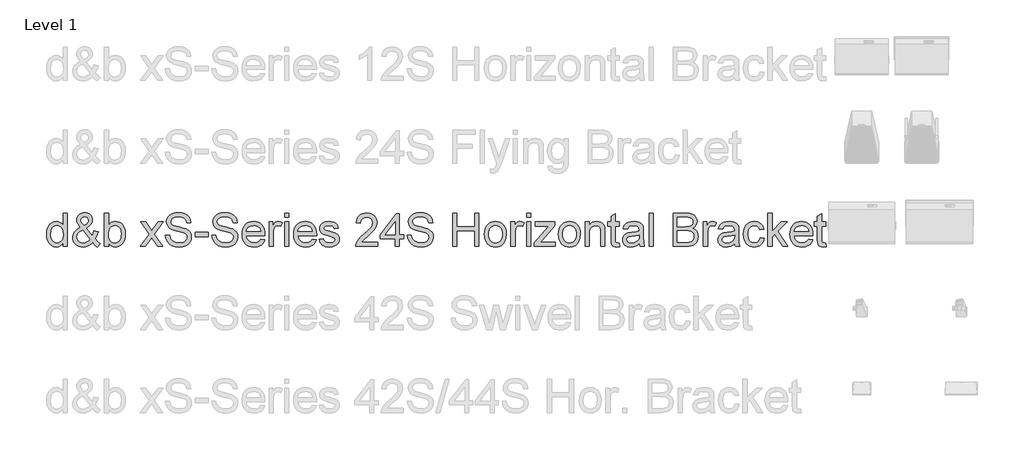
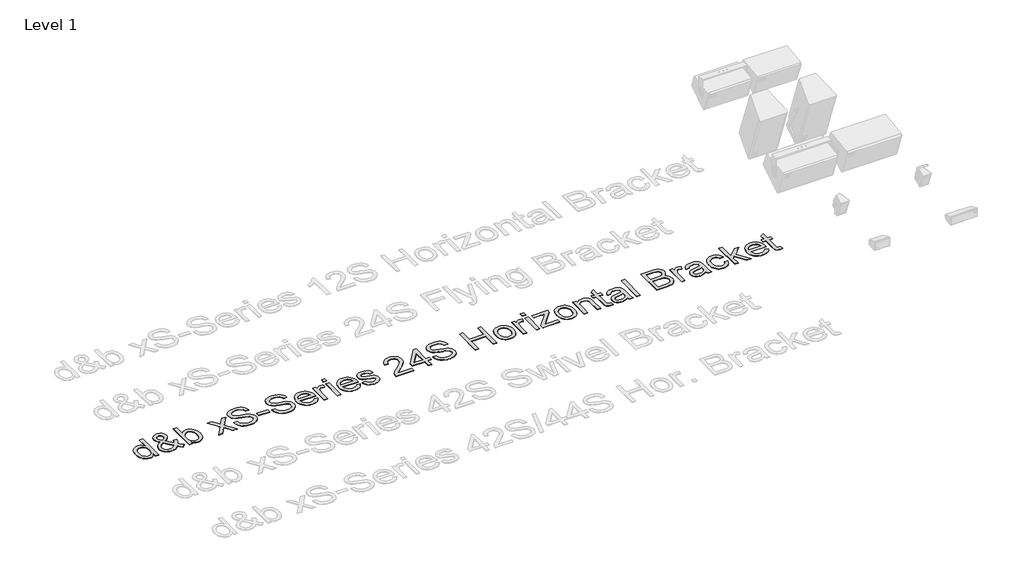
# One storey, part 31 of 55: 1 proxy.
"""IFC4 building model written with IfcOpenShell, lengths in millimetres."""

import ifcopenshell
import ifcopenshell.guid

model = None  # the IFC model being written
_history = None  # IfcOwnerHistory: only IFC2X3 demands one
_inside = {}  # id of a spatial element -> (the spatial element, [elements in it])
_under = {}  # id of a project, library or spatial element -> (it, [spatial elements below it])
_declared = {}  # id of a project -> (the project, [libraries it declares])
_typed = {}  # id of a type object -> (the type object, [elements of that type])
_made_of = {}  # id of a material, layer set ... -> (it, [elements and type objects made of it])


def new_model(schema):
    """Start an empty IFC model of exactly this schema.

    Asked for "IFC4X3", IfcOpenShell would pick the latest addendum, in which some entities
    have other attributes; the version numbers below select the first issue.
    IFC2X3 requires an IfcOwnerHistory on every rooted entity: one is made here for all.
    """
    global model, _history
    if schema == "IFC4X3":
        model = ifcopenshell.file(schema_version=(4, 3, 0, 0))
    else:
        model = ifcopenshell.file(schema=schema)
    _inside.clear()
    _under.clear()
    _declared.clear()
    _typed.clear()
    _made_of.clear()
    _history = None
    if model.schema == "IFC2X3":
        org = make("IfcOrganization", Name="unknown")
        user = make(
            "IfcPersonAndOrganization",
            ThePerson=make("IfcPerson", FamilyName="unknown"),
            TheOrganization=org,
        )
        app = make(
            "IfcApplication",
            ApplicationDeveloper=org,
            Version="unknown",
            ApplicationFullName="unknown",
            ApplicationIdentifier="unknown",
        )
        _history = make(
            "IfcOwnerHistory",
            OwningUser=user,
            OwningApplication=app,
            ChangeAction="ADDED",
            CreationDate=0,
        )
    return model


def make(cls, **values):
    """One entity of the class cls with the attributes given. An attribute that is None is left unset."""
    return model.create_entity(
        cls, **{name: value for name, value in values.items() if value is not None}
    )


def rooted(cls, **values):
    """An entity with a GlobalId (a new one), such as an element, a storey or a relation."""
    return make(cls, GlobalId=ifcopenshell.guid.new(), OwnerHistory=_history, **values)


def si_unit(unit_type, name, prefix=None):
    """IfcSIUnit, for example si_unit("LENGTHUNIT", "METRE", prefix="MILLI")."""
    return make("IfcSIUnit", UnitType=unit_type, Prefix=prefix, Name=name)


def assignment(units):
    """IfcUnitAssignment: the units of a project."""
    return None if units is None else make("IfcUnitAssignment", Units=units)


def point(xyz):
    """IfcCartesianPoint."""
    return None if xyz is None else make("IfcCartesianPoint", Coordinates=xyz)


def direction(xyz):
    """IfcDirection."""
    return None if xyz is None else make("IfcDirection", DirectionRatios=xyz)


def frame(location, z_axis=None, x_axis=None):
    """IfcAxis2Placement3D, a coordinate frame: its origin and axes. An axis left out is left unset."""
    return make(
        "IfcAxis2Placement3D",
        Location=point(location),
        Axis=direction(z_axis),
        RefDirection=direction(x_axis),
    )


def origin():
    """The frame at (0, 0, 0) with its axes left unset."""
    return frame((0.0, 0.0, 0.0))


def origin_with_axes():
    """The frame at (0, 0, 0) with the z axis (0, 0, 1) and the x axis (1, 0, 0) written out."""
    return frame((0.0, 0.0, 0.0), z_axis=(0.0, 0.0, 1.0), x_axis=(1.0, 0.0, 0.0))


def place(relative_to, where):
    """IfcLocalPlacement: puts the frame where relative to a parent placement (None: the world)."""
    return make(
        "IfcLocalPlacement", PlacementRelTo=relative_to, RelativePlacement=where
    )


def context(
    kind, dimensions, precision=None, world=None, true_north=None, identifier=None
):
    """IfcGeometricRepresentationContext, for example the 3D "Model" context."""
    return make(
        "IfcGeometricRepresentationContext",
        ContextIdentifier=identifier,
        ContextType=kind,
        CoordinateSpaceDimension=dimensions,
        Precision=precision,
        WorldCoordinateSystem=world,
        TrueNorth=true_north,
    )


def project(units=None, contexts=None):
    """IfcProject with its units and contexts."""
    return rooted(
        "IfcProject",
        Name="project",
        RepresentationContexts=contexts,
        UnitsInContext=assignment(units),
    )


def spatial(cls, under=None, at=None, **own):
    """A site, building, storey or space (cls), placed at a placement, below another one or the project."""
    s = rooted(cls, ObjectPlacement=at, **own)
    if under is not None:
        _under.setdefault(under.id(), (under, []))[1].append(s)
    return s


def polyline(points):
    """IfcPolyline through the points."""
    return make("IfcPolyline", Points=[point(p) for p in points])


def outline(outer, holes=None, kind="AREA"):
    """IfcArbitraryClosedProfileDef: a profile drawn as a closed curve; with holes, ...WithVoids."""
    if holes is None:
        return make("IfcArbitraryClosedProfileDef", ProfileType=kind, OuterCurve=outer)
    return make(
        "IfcArbitraryProfileDefWithVoids",
        ProfileType=kind,
        OuterCurve=outer,
        InnerCurves=holes,
    )


def extrude(swept, where, along, depth):
    """IfcExtrudedAreaSolid: the profile swept, set in the frame where, extruded along a direction by depth."""
    return make(
        "IfcExtrudedAreaSolid",
        SweptArea=swept,
        Position=where,
        ExtrudedDirection=direction(along),
        Depth=depth,
    )


def shape(context_of_items, identifier, shape_type, items):
    """IfcShapeRepresentation: the items that make up one representation, for example the "Body"."""
    return make(
        "IfcShapeRepresentation",
        ContextOfItems=context_of_items,
        RepresentationIdentifier=identifier,
        RepresentationType=shape_type,
        Items=items,
    )


def made_of(thing, what):
    """Note that an element or type object is made of a material, layer set ...; save() writes the relation."""
    if what is not None:
        _made_of.setdefault(what.id(), (what, []))[1].append(thing)
    return thing


def element(
    cls,
    number,
    at=None,
    inside=None,
    cuts=None,
    type_object=None,
    material=None,
    context=None,
    identifier="Body",
    shape_type=None,
    held_by="IfcProductDefinitionShape",
    body=None,
    shapes=None,
    **own,
):
    """One element of the class cls, such as IfcWall. Its Tag is "e" and its number.

    at: its placement. inside: the storey or other place that contains it. cuts: it is an
    opening in that element (IfcRelVoidsElement). A single representation is given by context,
    identifier, shape_type and body (its items); several are given by shapes. held_by: the class
    of the entity that holds the representations. save() writes the other relations.
    """
    e = rooted(cls, Tag="e%d" % number, ObjectPlacement=at, **own)
    if body is not None:
        shapes = [shape(context, identifier, shape_type, body)]
    if shapes is not None:
        e.Representation = make(held_by, Representations=shapes)
    if inside is not None:
        _inside.setdefault(inside.id(), (inside, []))[1].append(e)
    if cuts is not None:
        rooted(
            "IfcRelVoidsElement", RelatingBuildingElement=cuts, RelatedOpeningElement=e
        )
    if type_object is not None:
        _typed.setdefault(type_object.id(), (type_object, []))[1].append(e)
    return made_of(e, material)


def aggregate(whole, parts):
    """IfcRelAggregates: a whole, such as a stair, and the parts it consists of."""
    return rooted("IfcRelAggregates", RelatingObject=whole, RelatedObjects=parts)


def save(model, path):
    """Write the relations noted so far, then the file.

    IfcRelAggregates (storeys below a building ...), IfcRelContainedInSpatialStructure (elements
    in a storey), IfcRelDefinesByType, IfcRelAssociatesMaterial and IfcRelDeclares: one each for
    every whole, place, type object, material and project.
    """
    for whole, parts in _under.values():
        aggregate(whole, parts)
    for where, things in _inside.values():
        rooted(
            "IfcRelContainedInSpatialStructure",
            RelatedElements=things,
            RelatingStructure=where,
        )
    for kind, things in _typed.values():
        rooted("IfcRelDefinesByType", RelatedObjects=things, RelatingType=kind)
    for what, things in _made_of.values():
        rooted("IfcRelAssociatesMaterial", RelatedObjects=things, RelatingMaterial=what)
    for by, libraries in _declared.values():
        rooted("IfcRelDeclares", RelatingContext=by, RelatedDefinitions=libraries)
    model.write(path)


model = new_model("IFC4")

# Units and contexts
model_context = context("Model", 3, world=origin())
ifc_project = project(units=[si_unit("LENGTHUNIT", "METRE", prefix="MILLI")], contexts=[model_context])

# Site, building, storey
site = spatial("IfcSite", under=ifc_project)
building = spatial("IfcBuilding", under=site)
storey = spatial("IfcBuildingStorey", under=building, Name="Level 1", Elevation=0.0)

# Proxy
placement = place(None, origin())
element("IfcBuildingElementProxy", 1, Name="400mm Arial", ObjectType="400mm Arial", at=placement, inside=storey, context=model_context, shape_type="SweptSolid", body=[
    extrude(outline(polyline([(-20879.8211974, -4648.6945164), (-20879.8211974, -4601.3113154), (-20894.8491769, -4624.7883181), (-20913.0532043, -4641.5576057), (-20934.4332796, -4651.6191783), (-20958.9894028, -4654.9730358), (-20991.4611202, -4650.1169935), (-21021.1859854, -4635.5488665), (-21046.3491139, -4612.2864616), (-21065.1356211, -4581.3475858), (-21076.8342686, -4543.9830379), (-21080.7338177, -4501.4436165), (-21077.1408369, -4459.4314926), (-21066.3618944, -4421.4905962), (-21048.4092531, -4389.7791682), (-21023.2951755, -4366.4554497), (-20992.9203855, -4352.1080519), (-20959.1856065, -4347.325586), (-20934.6110892, -4350.7468885), (-20912.8815261, -4361.0107962), (-20894.4629008, -4376.7438829), (-20879.8211974, -4396.5727224), (-20879.8211974, -4246.8692758), (-20829.5930424, -4246.8692758), (-20829.5930424, -4648.6945164), (-20879.8211974, -4648.6945164)]), holes=[polyline([(-21030.5056627, -4501.2474128), (-21029.089317, -4525.6042665), (-21024.8402799, -4546.6808392), (-21017.7585515, -4564.4771307), (-21007.8441318, -4578.9931411), (-20983.1469871, -4598.3069458), (-20969.2717046, -4603.135397), (-20954.3786151, -4604.7448807), (-20939.415015, -4603.2089734), (-20925.6225058, -4598.6012514), (-20901.5507606, -4580.1703635), (-20892.0440767, -4566.2613584), (-20885.2535882, -4549.1088603), (-20879.8211974, -4505.0733855), (-20885.3516901, -4456.9298951), (-20892.2648059, -4438.3947739), (-20901.9431681, -4423.5507354), (-20913.6448812, -4412.1770504), (-20926.6280499, -4404.0529896), (-20940.8926743, -4399.1785532), (-20956.4387543, -4397.5537411), (-20971.6261493, -4399.1141738), (-20985.5014319, -4403.7954722), (-20998.064602, -4411.5976362), (-21009.3156597, -4422.5206658), (-21018.586286, -4436.8036843), (-21025.2081619, -4454.6858149), (-21030.5056627, -4501.2474128)])]), origin_with_axes(), (0.0, 0.0, 1.0), 5.0),
    extrude(outline(polyline([(-20523.809528, -4599.0549725), (-20549.3405384, -4623.5191252), (-20577.0788409, -4640.99352), (-20607.0734862, -4651.4781569), (-20639.3735254, -4654.9730358), (-20668.6814577, -4652.3855991), (-20694.8010793, -4644.623289), (-20717.7323904, -4631.6861055), (-20737.4753908, -4613.5740486), (-20750.308341, -4596.2038871), (-20759.4747341, -4577.8404442), (-20764.9745699, -4558.4837198), (-20766.8078485, -4538.1337141), (-20760.9094739, -4502.9396699), (-20743.2143499, -4471.3263438), (-20713.796053, -4443.3182613), (-20672.7281596, -4418.9399477), (-20694.6416638, -4390.5885086), (-20707.7995765, -4368.1231814), (-20714.3846642, -4348.9442668), (-20716.5796934, -4330.4520651), (-20714.8506481, -4312.8979626), (-20709.6635119, -4296.5333452), (-20701.018285, -4281.3582129), (-20688.9149674, -4267.3725657), (-20674.1935562, -4255.6555241), (-20657.6940487, -4247.2862088), (-20639.4164449, -4242.2646195), (-20619.3607448, -4240.5907564), (-20600.212487, -4242.1910431), (-20582.8913764, -4246.9919032), (-20567.397413, -4254.9933366), (-20553.7305969, -4266.1953433), (-20542.5715097, -4279.6414302), (-20534.6007332, -4294.3751041), (-20529.8182672, -4310.396365), (-20528.2241119, -4327.7052129), (-20532.9452642, -4355.68877), (-20547.108721, -4381.563137), (-20570.7144823, -4405.3283139), (-20603.7625482, -4426.9843007), (-20531.069066, -4517.5323224), (-20518.6837055, -4491.6579554), (-20509.3885538, -4461.9085647), (-20459.1603987, -4472.7978718), (-20474.6114425, -4519.3226815), (-20494.6732739, -4555.4977443), (-20466.1256311, -4588.8033276), (-20434.0463211, -4616.3209009), (-20471.7174374, -4654.9730358), (-20497.3465498, -4631.52669), (-20523.809528, -4599.0549725)]), holes=[polyline([(-20557.4584678, -4562.8553842), (-20647.1235727, -4450.9211558), (-20681.3733865, -4472.7733463), (-20702.305872, -4493.0068561), (-20713.0112381, -4512.3329235), (-20716.5796934, -4531.4627873), (-20711.6991256, -4555.1543878), (-20697.0574222, -4579.7289051), (-20686.2784798, -4590.6733944), (-20673.4639236, -4598.4908868), (-20658.6137537, -4603.1813823), (-20641.7279702, -4604.7448807), (-20619.0051256, -4601.8263502), (-20595.5710425, -4593.0707588), (-20574.1480476, -4579.6798541), (-20557.4584678, -4562.8553842)]), polyline([(-20629.1709314, -4395.2973981), (-20602.9041569, -4378.6323438), (-20587.8700461, -4364.1500559), (-20580.8067117, -4350.0601755), (-20578.452267, -4334.5723435), (-20581.5547385, -4317.0243723), (-20590.862153, -4303.0325938), (-20604.829406, -4293.8723321), (-20621.9113933, -4290.8189115), (-20639.3612626, -4293.8478066), (-20653.6473468, -4302.9344919), (-20663.1754905, -4316.3867102), (-20666.3515384, -4332.5122043), (-20662.0350563, -4350.9063041), (-20648.9875082, -4371.360543), (-20629.1709314, -4395.2973981)])]), origin_with_axes(), (0.0, 0.0, 1.0), 5.0),
    extrude(outline(polyline([(-20333.590011, -4648.6945164), (-20383.8181661, -4648.6945164), (-20383.8181661, -4246.8692758), (-20333.590011, -4246.8692758), (-20333.590011, -4395.8860093), (-20317.0721094, -4374.6408241), (-20298.4204923, -4359.4656918), (-20277.6351595, -4350.3606124), (-20254.7161112, -4347.325586), (-20228.8417442, -4350.0601755), (-20204.3898543, -4358.263944), (-20182.758393, -4371.4218567), (-20165.3453119, -4389.0188788), (-20151.6968898, -4410.883332), (-20141.3594058, -4436.8435381), (-20134.8478945, -4465.8203766), (-20132.6773907, -4496.734727), (-20134.9245365, -4532.4070178), (-20141.6659741, -4563.7873519), (-20152.9017034, -4590.8757295), (-20168.6317244, -4613.6721505), (-20187.5132678, -4631.7412878), (-20208.2035643, -4644.6478145), (-20230.702614, -4652.3917305), (-20255.0104168, -4654.9730358), (-20278.6836232, -4651.6437038), (-20299.671291, -4641.6557076), (-20317.9734203, -4625.0090473), (-20333.590011, -4601.7037229), (-20333.590011, -4648.6945164)]), holes=[polyline([(-20333.590011, -4499.0891717), (-20330.1564457, -4540.9786682), (-20319.8557498, -4569.3301073), (-20307.6849872, -4584.8240707), (-20293.5399244, -4595.8911874), (-20277.4205617, -4602.5314574), (-20259.3268989, -4604.7448807), (-20244.3050508, -4603.1139372), (-20230.3377977, -4598.2211067), (-20217.4251396, -4590.0663891), (-20205.5670767, -4578.6497845), (-20195.6526569, -4564.0019498), (-20188.5709285, -4546.1535416), (-20184.3218914, -4525.1045601), (-20182.9055458, -4500.8550053), (-20188.3379366, -4454.8942814), (-20195.1284251, -4437.1010555), (-20204.6351089, -4422.7659205), (-20216.0670419, -4411.735592), (-20228.6332778, -4403.8567859), (-20242.3338164, -4399.1295023), (-20257.1686579, -4397.5537411), (-20272.190506, -4399.1846846), (-20286.1577591, -4404.0775151), (-20299.0704171, -4412.2322327), (-20310.9284801, -4423.6488372), (-20320.8428999, -4438.1495192), (-20327.9246283, -4455.556469), (-20332.1736653, -4475.8696865), (-20333.590011, -4499.0891717)])]), origin_with_axes(), (0.0, 0.0, 1.0), 5.0),
    extrude(outline(polyline([(-19950.6003285, -4648.6945164), (-19843.2768878, -4500.2663941), (-19944.3218092, -4353.6041054), (-19884.0872638, -4353.6041054), (-19835.3306367, -4424.3355503), (-19812.4729021, -4457.5920827), (-19792.6563253, -4430.3197641), (-19737.1306695, -4353.6041054), (-19676.6999204, -4353.6041054), (-19782.8461387, -4500.364496), (-19680.623995, -4648.6945164), (-19740.9566422, -4648.6945164), (-19802.5646137, -4559.4218189), (-19813.7482263, -4543.0388074), (-19890.1695795, -4648.6945164), (-19950.6003285, -4648.6945164)])), origin_with_axes(), (0.0, 0.0, 1.0), 5.0),
    extrude(outline(polyline([(-19649.2313981, -4510.56709), (-19599.003243, -4510.56709), (-19593.2397584, -4538.4402825), (-19582.8164352, -4560.844296), (-19566.556051, -4578.6252591), (-19543.2813835, -4592.6293004), (-19514.8318425, -4601.7159856), (-19483.0468381, -4604.7448807), (-19455.063281, -4602.4517496), (-19430.5623402, -4595.5723563), (-19410.7089752, -4584.6830493), (-19396.6681457, -4570.3601769), (-19388.3172244, -4553.9158517), (-19385.533584, -4536.6621862), (-19387.6182486, -4519.849979), (-19393.8722425, -4505.3186402), (-19406.5764341, -4492.9210169), (-19428.0116917, -4482.5099565), (-19501.1466323, -4463.3310418), (-19549.1552327, -4450.639113), (-19579.8733793, -4438.5603208), (-19604.8770922, -4421.6622745), (-19622.5967416, -4401.1835101), (-19633.1549549, -4377.565486), (-19636.6743593, -4351.2496606), (-19632.3210891, -4321.8313637), (-19619.2612782, -4294.3996296), (-19597.8382834, -4271.1494875), (-19568.395461, -4254.2759667), (-19533.054264, -4244.012059), (-19493.9361452, -4240.5907564), (-19451.5561394, -4244.1714745), (-19414.4736342, -4254.9136288), (-19384.013005, -4272.59649), (-19361.4986269, -4296.999329), (-19347.249331, -4326.6015669), (-19341.5839483, -4359.8826247), (-19391.8121033, -4359.8826247), (-19401.0336787, -4329.9125049), (-19409.3968627, -4318.0544419), (-19420.2616443, -4308.2810436), (-19450.3053406, -4295.1844445), (-19491.9741079, -4290.8189115), (-19534.6238939, -4295.1353936), (-19550.9271976, -4300.5309962), (-19563.8827752, -4308.0848398), (-19580.805347, -4327.1411272), (-19586.4462043, -4349.7781326), (-19582.4485532, -4369.0796746), (-19570.4556002, -4384.6042948), (-19542.1041611, -4398.4857088), (-19488.4424407, -4412.6614283), (-19433.0639377, -4426.1259093), (-19399.5621507, -4437.8736077), (-19370.9286687, -4456.0960292), (-19350.9526764, -4478.5858819), (-19339.2172408, -4505.097911), (-19335.3054289, -4535.3868619), (-19339.805852, -4566.3502632), (-19353.3071212, -4595.4742545), (-19375.2574136, -4620.5392811), (-19405.1049061, -4639.3257883), (-19440.9979261, -4651.0612239), (-19481.0848008, -4654.9730358), (-19530.2951491, -4650.7546556), (-19570.7989567, -4638.099515), (-19603.0622077, -4616.958563), (-19627.5508858, -4587.2827487), (-19643.2717098, -4551.1322113), (-19649.2313981, -4510.56709)])), origin_with_axes(), (0.0, 0.0, 1.0), 5.0),
    extrude(outline(polyline([(-19291.3557932, -4529.4026481), (-19291.3557932, -4479.174493), (-19134.3928086, -4479.174493), (-19134.3928086, -4529.4026481), (-19291.3557932, -4529.4026481)])), origin_with_axes(), (0.0, 0.0, 1.0), 5.0),
    extrude(outline(polyline([(-19090.4431729, -4510.56709), (-19040.2150178, -4510.56709), (-19034.4515332, -4538.4402825), (-19024.02821, -4560.844296), (-19007.7678258, -4578.6252591), (-18984.4931583, -4592.6293004), (-18956.0436173, -4601.7159856), (-18924.2586129, -4604.7448807), (-18896.2750558, -4602.4517496), (-18871.774115, -4595.5723563), (-18851.9207499, -4584.6830493), (-18837.8799205, -4570.3601769), (-18829.5289992, -4553.9158517), (-18826.7453587, -4536.6621862), (-18828.8300234, -4519.849979), (-18835.0840173, -4505.3186402), (-18847.7882089, -4492.9210169), (-18869.2234665, -4482.5099565), (-18942.3584071, -4463.3310418), (-18990.3670075, -4450.639113), (-19021.0851541, -4438.5603208), (-19046.088867, -4421.6622745), (-19063.8085164, -4401.1835101), (-19074.3667297, -4377.565486), (-19077.8861341, -4351.2496606), (-19073.5328638, -4321.8313637), (-19060.473053, -4294.3996296), (-19039.0500582, -4271.1494875), (-19009.6072358, -4254.2759667), (-18974.2660388, -4244.012059), (-18935.14792, -4240.5907564), (-18892.7679141, -4244.1714745), (-18855.685409, -4254.9136288), (-18825.2247798, -4272.59649), (-18802.7104017, -4296.999329), (-18788.4611058, -4326.6015669), (-18782.7957231, -4359.8826247), (-18833.0238781, -4359.8826247), (-18842.2454535, -4329.9125049), (-18850.6086375, -4318.0544419), (-18861.4734191, -4308.2810436), (-18891.5171154, -4295.1844445), (-18933.1858827, -4290.8189115), (-18975.8356687, -4295.1353936), (-18992.1389724, -4300.5309962), (-19005.09455, -4308.0848398), (-19022.0171218, -4327.1411272), (-19027.657979, -4349.7781326), (-19023.660328, -4369.0796746), (-19011.667375, -4384.6042948), (-18983.3159359, -4398.4857088), (-18929.6542155, -4412.6614283), (-18874.2757125, -4426.1259093), (-18840.7739255, -4437.8736077), (-18812.1404435, -4456.0960292), (-18792.1644512, -4478.5858819), (-18780.4290156, -4505.097911), (-18776.5172037, -4535.3868619), (-18781.0176267, -4566.3502632), (-18794.518896, -4595.4742545), (-18816.4691883, -4620.5392811), (-18846.3166809, -4639.3257883), (-18882.2097009, -4651.0612239), (-18922.2965756, -4654.9730358), (-18971.5069238, -4650.7546556), (-19012.0107315, -4638.099515), (-19044.2739825, -4616.958563), (-19068.7626606, -4587.2827487), (-19084.4834846, -4551.1322113), (-19090.4431729, -4510.56709)])), origin_with_axes(), (0.0, 0.0, 1.0), 5.0),
    extrude(outline(polyline([(-18500.850962, -4560.795245), (-18451.6038255, -4567.0737644), (-18459.1546035, -4586.7983707), (-18469.3480004, -4604.180795), (-18482.1840164, -4619.2210372), (-18497.6626513, -4631.9190974), (-18515.6244897, -4642.0051955), (-18535.9101161, -4649.2095512), (-18583.4527326, -4654.9730358), (-18614.618469, -4652.4867667), (-18642.3874282, -4645.0279592), (-18666.7596104, -4632.5966135), (-18687.7350155, -4615.1927294), (-18704.602405, -4593.300685), (-18716.6505403, -4567.4048582), (-18723.8794215, -4537.5052491), (-18726.2890486, -4503.6018575), (-18723.8548961, -4468.5488348), (-18716.5524385, -4437.6528785), (-18704.3816758, -4410.9139888), (-18687.342608, -4388.3321657), (-18666.4223852, -4370.3917871), (-18642.6081574, -4357.5772309), (-18615.8999246, -4349.8884972), (-18586.2976867, -4347.325586), (-18557.6488763, -4349.8823658), (-18531.7407868, -4357.5527054), (-18508.5734182, -4370.3366048), (-18488.1467704, -4388.2340638), (-18471.472519, -4410.766836), (-18459.5623394, -4437.4566748), (-18452.4162316, -4468.3035801), (-18450.0341957, -4503.3075519), (-18450.3285013, -4516.8456094), (-18676.0608935, -4516.8456094), (-18673.1515601, -4536.8890467), (-18667.3666157, -4554.4431493), (-18658.7060604, -4569.507917), (-18647.1698942, -4582.0833498), (-18633.3957791, -4591.9977696), (-18618.0213774, -4599.079498), (-18582.4717139, -4604.7448807), (-18555.7389556, -4602.1206558), (-18533.2245775, -4594.2479811), (-18514.9285796, -4580.6363473), (-18500.850962, -4560.795245)]), holes=[polyline([(-18676.0608935, -4466.6174543), (-18500.2623508, -4466.6174543), (-18507.0559049, -4440.0808997), (-18520.3732332, -4421.0981887), (-18534.0707061, -4410.7974929), (-18549.65664, -4403.439853), (-18567.1310348, -4399.025269), (-18586.4938904, -4397.5537411), (-18620.3512967, -4402.2503679), (-18648.3471166, -4416.3402483), (-18667.8080741, -4438.3028034), (-18676.0608935, -4466.6174543)])]), origin_with_axes(), (0.0, 0.0, 1.0), 5.0),
    extrude(outline(polyline([(-18399.8060406, -4648.6945164), (-18399.8060406, -4353.6041054), (-18355.8564049, -4353.6041054), (-18355.8564049, -4397.2594355), (-18339.6205462, -4371.9491542), (-18324.6600117, -4357.0376707), (-18309.6504263, -4349.7536071), (-18293.2674148, -4347.325586), (-18268.2514391, -4351.2006097), (-18242.843056, -4362.8256807), (-18259.618475, -4407.8544369), (-18277.2768108, -4400.128915), (-18294.9351465, -4397.5537411), (-18309.9324692, -4400.0308132), (-18323.3356365, -4407.4620295), (-18334.1636299, -4419.2833042), (-18341.4354307, -4434.9305518), (-18347.5422718, -4462.9876853), (-18349.5778855, -4493.5954673), (-18349.5778855, -4648.6945164), (-18399.8060406, -4648.6945164)])), origin_with_axes(), (0.0, 0.0, 1.0), 5.0),
    extrude(outline(polyline([(-18211.4504591, -4297.0974309), (-18211.4504591, -4246.8692758), (-18161.222304, -4246.8692758), (-18161.222304, -4297.0974309), (-18211.4504591, -4297.0974309)])), origin_with_axes(), (0.0, 0.0, 1.0), 5.0),
    extrude(outline(polyline([(-18211.4504591, -4648.6945164), (-18211.4504591, -4353.6041054), (-18161.222304, -4353.6041054), (-18161.222304, -4648.6945164), (-18211.4504591, -4648.6945164)])), origin_with_axes(), (0.0, 0.0, 1.0), 5.0),
    extrude(outline(polyline([(-17879.2775429, -4560.795245), (-17830.0304065, -4567.0737644), (-17837.5811844, -4586.7983707), (-17847.7745814, -4604.180795), (-17860.6105973, -4619.2210372), (-17876.0892323, -4631.9190974), (-17894.0510707, -4642.0051955), (-17914.336697, -4649.2095512), (-17961.8793136, -4654.9730358), (-17993.0450499, -4652.4867667), (-18020.8140092, -4645.0279592), (-18045.1861914, -4632.5966135), (-18066.1615965, -4615.1927294), (-18083.0289859, -4593.300685), (-18095.0771213, -4567.4048582), (-18102.3060025, -4537.5052491), (-18104.7156295, -4503.6018575), (-18102.281477, -4468.5488348), (-18094.9790194, -4437.6528785), (-18082.8082567, -4410.9139888), (-18065.769189, -4388.3321657), (-18044.8489662, -4370.3917871), (-18021.0347384, -4357.5772309), (-17994.3265055, -4349.8884972), (-17964.7242676, -4347.325586), (-17936.0754573, -4349.8823658), (-17910.1673678, -4357.5527054), (-17886.9999991, -4370.3366048), (-17866.5733513, -4388.2340638), (-17849.8990999, -4410.766836), (-17837.9889203, -4437.4566748), (-17830.8428126, -4468.3035801), (-17828.4607766, -4503.3075519), (-17828.7550822, -4516.8456094), (-18054.4874745, -4516.8456094), (-18051.578141, -4536.8890467), (-18045.7931967, -4554.4431493), (-18037.1326413, -4569.507917), (-18025.5964751, -4582.0833498), (-18011.8223601, -4591.9977696), (-17996.4479584, -4599.079498), (-17960.8982949, -4604.7448807), (-17934.1655366, -4602.1206558), (-17911.6511585, -4594.2479811), (-17893.3551606, -4580.6363473), (-17879.2775429, -4560.795245)]), holes=[polyline([(-18054.4874745, -4466.6174543), (-17878.6889317, -4466.6174543), (-17885.4824859, -4440.0808997), (-17898.7998141, -4421.0981887), (-17912.4972871, -4410.7974929), (-17928.0832209, -4403.439853), (-17945.5576157, -4399.025269), (-17964.9204714, -4397.5537411), (-17998.7778777, -4402.2503679), (-18026.7736975, -4416.3402483), (-18046.234655, -4438.3028034), (-18054.4874745, -4466.6174543)])]), origin_with_axes(), (0.0, 0.0, 1.0), 5.0),
    extrude(outline(polyline([(-17797.0681797, -4560.795245), (-17746.8400246, -4554.5167257), (-17738.918299, -4576.0010342), (-17723.5898825, -4591.7954345), (-17700.7566734, -4601.5075192), (-17670.3205696, -4604.7448807), (-17640.2523479, -4601.7772993), (-17619.1113959, -4592.874555), (-17606.6034081, -4579.9741597), (-17602.4340788, -4565.0136253), (-17606.6279335, -4552.2113318), (-17619.2094978, -4542.4501962), (-17670.9091808, -4528.1273239), (-17746.545719, -4503.5528066), (-17765.6878455, -4491.2042343), (-17779.5569967, -4474.858011), (-17787.9814944, -4455.556469), (-17790.7896603, -4434.3419406), (-17788.5333174, -4414.880983), (-17781.7642887, -4396.9160789), (-17771.0957109, -4381.1584668), (-17757.1407205, -4368.3193852), (-17725.2085633, -4353.4569526), (-17704.3251287, -4348.8584276), (-17681.9946916, -4347.325586), (-17649.302245, -4349.7903953), (-17620.8772295, -4357.1848234), (-17598.0194949, -4368.785369), (-17582.0288908, -4383.8685308), (-17571.4338893, -4403.5502176), (-17564.7629625, -4428.946338), (-17614.9911176, -4435.2248574), (-17621.3309506, -4419.4181943), (-17633.8757267, -4407.5110804), (-17652.748073, -4400.0430759), (-17678.070617, -4397.5537411), (-17706.9125654, -4399.9327113), (-17726.140531, -4407.069622), (-17736.9562617, -4417.3703179), (-17740.5615053, -4429.2406436), (-17734.5772915, -4443.8578215), (-17715.8398352, -4454.9433323), (-17672.5769125, -4465.6364356), (-17598.8533607, -4489.2789852), (-17579.3801404, -4500.5852252), (-17564.6158097, -4516.0607944), (-17555.3083952, -4535.7547439), (-17552.2059237, -4559.7161245), (-17555.8479555, -4584.4868455), (-17566.7740507, -4607.7860386), (-17584.5672766, -4627.7865564), (-17608.8107, -4642.6612517), (-17638.0941069, -4651.8950898), (-17671.0072827, -4654.9730358), (-17698.040478, -4653.4892451), (-17721.6523707, -4649.037873), (-17741.8429609, -4641.6189194), (-17758.6122485, -4631.2323844), (-17772.3097214, -4617.9273189), (-17783.2848676, -4601.7527738), (-17791.5376871, -4582.7087492), (-17797.0681797, -4560.795245)])), origin_with_axes(), (0.0, 0.0, 1.0), 5.0),
    extrude(outline(polyline([(-17093.8740087, -4598.4663614), (-17093.8740087, -4648.6945164), (-17357.5718228, -4648.6945164), (-17356.4681768, -4631.0116552), (-17352.1762202, -4614.0645579), (-17339.778597, -4587.0007058), (-17321.6174891, -4560.7461941), (-17295.3629774, -4533.2654091), (-17258.6851425, -4502.522737), (-17204.4961246, -4454.3792466), (-17172.0121444, -4418.8418458), (-17155.7885485, -4389.9998974), (-17150.3806831, -4361.9427639), (-17155.4942429, -4336.7918982), (-17170.8349221, -4315.8839381), (-17194.4161579, -4301.7940577), (-17224.2513878, -4297.0974309), (-17255.582671, -4301.6836931), (-17279.9241964, -4315.4424797), (-17295.6327576, -4337.2946702), (-17301.0651483, -4366.1611441), (-17351.2933034, -4359.8826247), (-17346.9737557, -4333.9530755), (-17339.1164094, -4311.2976759), (-17327.7212646, -4291.9164261), (-17312.7883213, -4275.8093261), (-17294.6609359, -4263.1480541), (-17273.6824652, -4254.1042884), (-17249.8529089, -4248.678029), (-17223.1722672, -4246.8692758), (-17196.2525022, -4248.8803641), (-17172.2941873, -4254.9136288), (-17151.2973224, -4264.96907), (-17133.2619076, -4279.0466877), (-17118.7765541, -4296.1041495), (-17108.4298729, -4315.0991232), (-17102.2218643, -4336.0316087), (-17100.152528, -4358.9016061), (-17102.3843455, -4382.9243004), (-17109.0797978, -4406.5300617), (-17120.9623862, -4430.5404933), (-17138.7556121, -4455.7771982), (-17167.1193139, -4485.9067336), (-17210.7133303, -4524.5956567), (-17268.495329, -4572.9108254), (-17291.1568599, -4598.4663614), (-17093.8740087, -4598.4663614)])), origin_with_axes(), (0.0, 0.0, 1.0), 5.0),
    extrude(outline(polyline([(-16880.4043496, -4648.6945164), (-16880.4043496, -4554.5167257), (-17062.4814117, -4554.5167257), (-17062.4814117, -4504.2885706), (-16867.8473108, -4253.1477952), (-16830.1761945, -4253.1477952), (-16830.1761945, -4504.2885706), (-16779.9480394, -4504.2885706), (-16779.9480394, -4554.5167257), (-16830.1761945, -4554.5167257), (-16830.1761945, -4648.6945164), (-16880.4043496, -4648.6945164)]), holes=[polyline([(-16880.4043496, -4504.2885706), (-16880.4043496, -4349.0914196), (-17000.6772366, -4504.2885706), (-16880.4043496, -4504.2885706)])]), origin_with_axes(), (0.0, 0.0, 1.0), 5.0),
    extrude(outline(polyline([(-16735.9984038, -4510.56709), (-16685.7702487, -4510.56709), (-16680.0067641, -4538.4402825), (-16669.5834409, -4560.844296), (-16653.3230567, -4578.6252591), (-16630.0483891, -4592.6293004), (-16601.5988482, -4601.7159856), (-16569.8138438, -4604.7448807), (-16541.8302867, -4602.4517496), (-16517.3293458, -4595.5723563), (-16497.4759808, -4584.6830493), (-16483.4351513, -4570.3601769), (-16475.08423, -4553.9158517), (-16472.3005896, -4536.6621862), (-16474.3852543, -4519.849979), (-16480.6392482, -4505.3186402), (-16493.3434397, -4492.9210169), (-16514.7786973, -4482.5099565), (-16587.913638, -4463.3310418), (-16635.9222383, -4450.639113), (-16666.6403849, -4438.5603208), (-16691.6440979, -4421.6622745), (-16709.3637473, -4401.1835101), (-16719.9219606, -4377.565486), (-16723.441365, -4351.2496606), (-16719.0880947, -4321.8313637), (-16706.0282839, -4294.3996296), (-16684.605289, -4271.1494875), (-16655.1624667, -4254.2759667), (-16619.8212697, -4244.012059), (-16580.7031509, -4240.5907564), (-16538.323145, -4244.1714745), (-16501.2406399, -4254.9136288), (-16470.7800107, -4272.59649), (-16448.2656326, -4296.999329), (-16434.0163367, -4326.6015669), (-16428.3509539, -4359.8826247), (-16478.579109, -4359.8826247), (-16487.8006843, -4329.9125049), (-16496.1638684, -4318.0544419), (-16507.02865, -4308.2810436), (-16537.0723462, -4295.1844445), (-16578.7411136, -4290.8189115), (-16621.3908995, -4295.1353936), (-16637.6942033, -4300.5309962), (-16650.6497809, -4308.0848398), (-16667.5723527, -4327.1411272), (-16673.2132099, -4349.7781326), (-16669.2155589, -4369.0796746), (-16657.2226059, -4384.6042948), (-16628.8711668, -4398.4857088), (-16575.2094464, -4412.6614283), (-16519.8309434, -4426.1259093), (-16486.3291564, -4437.8736077), (-16457.6956744, -4456.0960292), (-16437.7196821, -4478.5858819), (-16425.9842464, -4505.097911), (-16422.0724345, -4535.3868619), (-16426.5728576, -4566.3502632), (-16440.0741268, -4595.4742545), (-16462.0244192, -4620.5392811), (-16491.8719118, -4639.3257883), (-16527.7649318, -4651.0612239), (-16567.8518065, -4654.9730358), (-16617.0621547, -4650.7546556), (-16657.5659624, -4638.099515), (-16689.8292134, -4616.958563), (-16714.3178915, -4587.2827487), (-16730.0387154, -4551.1322113), (-16735.9984038, -4510.56709)])), origin_with_axes(), (0.0, 0.0, 1.0), 5.0),
    extrude(outline(polyline([(-16189.7672173, -4648.6945164), (-16189.7672173, -4246.8692758), (-16139.5390622, -4246.8692758), (-16139.5390622, -4410.1107798), (-15926.0694032, -4410.1107798), (-15926.0694032, -4246.8692758), (-15875.8412481, -4246.8692758), (-15875.8412481, -4648.6945164), (-15926.0694032, -4648.6945164), (-15926.0694032, -4460.3389349), (-16139.5390622, -4460.3389349), (-16139.5390622, -4648.6945164), (-16189.7672173, -4648.6945164)])), origin_with_axes(), (0.0, 0.0, 1.0), 5.0),
    extrude(outline(polyline([(-15806.7775349, -4501.1493109), (-15804.0613395, -4462.932503), (-15795.9127533, -4430.000933), (-15782.3317763, -4402.3546011), (-15763.3184085, -4379.9935072), (-15744.176282, -4365.7012916), (-15723.0475928, -4355.4925663), (-15699.9323407, -4349.3673311), (-15674.8305259, -4347.325586), (-15647.1198147, -4349.8118551), (-15622.0639851, -4357.2706626), (-15599.6630373, -4369.7020083), (-15579.9169712, -4387.1058924), (-15563.8006741, -4408.8937036), (-15552.2890333, -4434.4768306), (-15545.3820489, -4463.8552736), (-15543.0797207, -4497.0290325), (-15547.1509481, -4547.7722224), (-15559.3646304, -4586.3998319), (-15579.3651482, -4615.3276195), (-15606.7968823, -4636.9713435), (-15639.3789643, -4650.4726127), (-15674.8305259, -4654.9730358), (-15702.9459074, -4652.4959637), (-15728.2347289, -4645.0647474), (-15750.6969904, -4632.6793869), (-15770.3326919, -4615.3398822), (-15786.2773107, -4593.3405389), (-15797.6663241, -4566.9756626), (-15804.4997322, -4536.2452532), (-15806.7775349, -4501.1493109)]), holes=[polyline([(-15756.5493798, -4501.051209), (-15755.0962459, -4525.4141942), (-15750.7368443, -4546.5091609), (-15743.4711749, -4564.3361093), (-15733.2992377, -4578.8950392), (-15720.9261399, -4590.2043449), (-15707.0569887, -4598.2824204), (-15691.691784, -4603.1292656), (-15674.8305259, -4604.7448807), (-15658.055107, -4603.1200686), (-15642.751216, -4598.2456322), (-15628.9188529, -4590.1215714), (-15616.5580179, -4578.7478864), (-15606.3860807, -4564.0448693), (-15599.1204113, -4545.9328124), (-15594.7610097, -4524.4117157), (-15593.3078758, -4499.4815792), (-15594.7702067, -4475.8911462), (-15599.1571995, -4455.3480025), (-15606.4688542, -4437.8521479), (-15616.7051707, -4423.4035826), (-15629.111991, -4412.0942769), (-15642.935157, -4404.0162014), (-15658.1746686, -4399.1693561), (-15674.8305259, -4397.5537411), (-15691.691784, -4399.1632248), (-15707.0569887, -4403.991676), (-15720.9261399, -4412.0390946), (-15733.2992377, -4423.3054807), (-15743.4711749, -4437.8214911), (-15750.7368443, -4455.6177826), (-15755.0962459, -4476.6943553), (-15756.5493798, -4501.051209)])]), origin_with_axes(), (0.0, 0.0, 1.0), 5.0),
    extrude(outline(polyline([(-15486.5730463, -4648.6945164), (-15486.5730463, -4353.6041054), (-15442.6234106, -4353.6041054), (-15442.6234106, -4397.2594355), (-15426.3875519, -4371.9491542), (-15411.4270174, -4357.0376707), (-15396.417432, -4349.7536071), (-15380.0344205, -4347.325586), (-15355.0184448, -4351.2006097), (-15329.6100617, -4362.8256807), (-15346.3854806, -4407.8544369), (-15364.0438164, -4400.128915), (-15381.7021522, -4397.5537411), (-15396.6994749, -4400.0308132), (-15410.1026422, -4407.4620295), (-15420.9306356, -4419.2833042), (-15428.2024364, -4434.9305518), (-15434.3092775, -4462.9876853), (-15436.3448912, -4493.5954673), (-15436.3448912, -4648.6945164), (-15486.5730463, -4648.6945164)])), origin_with_axes(), (0.0, 0.0, 1.0), 5.0),
    extrude(outline(polyline([(-15298.2174647, -4648.6945164), (-15298.2174647, -4353.6041054), (-15247.9893097, -4353.6041054), (-15247.9893097, -4648.6945164), (-15298.2174647, -4648.6945164)])), origin_with_axes(), (0.0, 0.0, 1.0), 5.0),
    extrude(outline(polyline([(-15298.2174647, -4297.0974309), (-15298.2174647, -4246.8692758), (-15247.9893097, -4246.8692758), (-15247.9893097, -4297.0974309), (-15298.2174647, -4297.0974309)])), origin_with_axes(), (0.0, 0.0, 1.0), 5.0),
    extrude(outline(polyline([(-15204.039674, -4648.6945164), (-15204.039674, -4601.4094173), (-15030.6936778, -4403.8322604), (-15082.0009534, -4403.8322604), (-15191.4826352, -4403.8322604), (-15191.4826352, -4353.6041054), (-14959.177418, -4353.6041054), (-14959.177418, -4396.2784168), (-15112.903041, -4571.5864502), (-15136.4474887, -4598.4663614), (-15078.3711844, -4598.4663614), (-14952.8988986, -4598.4663614), (-14952.8988986, -4648.6945164), (-15204.039674, -4648.6945164)])), origin_with_axes(), (0.0, 0.0, 1.0), 5.0),
    extrude(outline(polyline([(-14915.2277823, -4501.1493109), (-14912.5115869, -4462.932503), (-14904.3630007, -4430.000933), (-14890.7820237, -4402.3546011), (-14871.7686559, -4379.9935072), (-14852.6265295, -4365.7012916), (-14831.4978402, -4355.4925663), (-14808.3825882, -4349.3673311), (-14783.2807734, -4347.325586), (-14755.5700621, -4349.8118551), (-14730.5142325, -4357.2706626), (-14708.1132847, -4369.7020083), (-14688.3672186, -4387.1058924), (-14672.2509215, -4408.8937036), (-14660.7392808, -4434.4768306), (-14653.8322963, -4463.8552736), (-14651.5299682, -4497.0290325), (-14655.6011956, -4547.7722224), (-14667.8148778, -4586.3998319), (-14687.8153956, -4615.3276195), (-14715.2471297, -4636.9713435), (-14747.8292118, -4650.4726127), (-14783.2807734, -4654.9730358), (-14811.3961548, -4652.4959637), (-14836.6849763, -4645.0647474), (-14859.1472378, -4632.6793869), (-14878.7829393, -4615.3398822), (-14894.7275581, -4593.3405389), (-14906.1165715, -4566.9756626), (-14912.9499796, -4536.2452532), (-14915.2277823, -4501.1493109)]), holes=[polyline([(-14864.9996272, -4501.051209), (-14863.5464933, -4525.4141942), (-14859.1870917, -4546.5091609), (-14851.9214223, -4564.3361093), (-14841.7494851, -4578.8950392), (-14829.3763874, -4590.2043449), (-14815.5072361, -4598.2824204), (-14800.1420315, -4603.1292656), (-14783.2807734, -4604.7448807), (-14766.5053544, -4603.1200686), (-14751.2014634, -4598.2456322), (-14737.3691004, -4590.1215714), (-14725.0082653, -4578.7478864), (-14714.8363282, -4564.0448693), (-14707.5706588, -4545.9328124), (-14703.2112571, -4524.4117157), (-14701.7581232, -4499.4815792), (-14703.2204542, -4475.8911462), (-14707.607447, -4455.3480025), (-14714.9191016, -4437.8521479), (-14725.1554181, -4423.4035826), (-14737.5622384, -4412.0942769), (-14751.3854044, -4404.0162014), (-14766.624916, -4399.1693561), (-14783.2807734, -4397.5537411), (-14800.1420315, -4399.1632248), (-14815.5072361, -4403.991676), (-14829.3763874, -4412.0390946), (-14841.7494851, -4423.3054807), (-14851.9214223, -4437.8214911), (-14859.1870917, -4455.6177826), (-14863.5464933, -4476.6943553), (-14864.9996272, -4501.051209)])]), origin_with_axes(), (0.0, 0.0, 1.0), 5.0),
    extrude(outline(polyline([(-14595.0232937, -4648.6945164), (-14595.0232937, -4353.6041054), (-14544.7951386, -4353.6041054), (-14544.7951386, -4394.8068888), (-14527.3452693, -4374.0338188), (-14506.3882583, -4359.1959117), (-14481.9241056, -4350.2931674), (-14453.9528113, -4347.325586), (-14429.194353, -4349.7168189), (-14406.5205594, -4356.8905179), (-14387.6114248, -4367.9515032), (-14374.1469438, -4382.0045954), (-14365.0112076, -4399.0130063), (-14359.0883075, -4418.9399477), (-14356.4395571, -4467.5003711), (-14356.4395571, -4648.6945164), (-14406.6677122, -4648.6945164), (-14406.6677122, -4474.2693998), (-14408.1147147, -4448.2969309), (-14412.4557222, -4429.8292548), (-14420.463287, -4416.5977657), (-14432.9099612, -4406.333858), (-14448.863777, -4399.7487703), (-14467.3927668, -4397.5537411), (-14496.8110637, -4402.4833598), (-14521.8883531, -4417.272216), (-14531.9100717, -4429.3448768), (-14539.0684422, -4445.8443843), (-14543.3634645, -4466.7707384), (-14544.7951386, -4492.1239393), (-14544.7951386, -4648.6945164), (-14595.0232937, -4648.6945164)])), origin_with_axes(), (0.0, 0.0, 1.0), 5.0),
    extrude(outline(polyline([(-14180.6410143, -4606.8050199), (-14174.3624949, -4650.1660444), (-14211.9355094, -4654.9730358), (-14236.0440428, -4652.8883712), (-14254.0212096, -4646.6343773), (-14266.7254012, -4636.995869), (-14275.0150088, -4624.7576613), (-14279.5767456, -4603.7393366), (-14281.0973245, -4567.7604775), (-14281.0973245, -4403.8322604), (-14318.7684408, -4403.8322604), (-14318.7684408, -4353.6041054), (-14281.0973245, -4353.6041054), (-14281.0973245, -4281.8916418), (-14230.8691694, -4252.3629803), (-14230.8691694, -4353.6041054), (-14180.6410143, -4353.6041054), (-14180.6410143, -4403.8322604), (-14230.8691694, -4403.8322604), (-14230.8691694, -4566.2889495), (-14228.220419, -4592.187842), (-14219.6365058, -4601.3603664), (-14202.5177303, -4604.7448807), (-14180.6410143, -4606.8050199)])), origin_with_axes(), (0.0, 0.0, 1.0), 5.0),
    extrude(outline(polyline([(-13942.0572777, -4611.0234001), (-13966.0554465, -4631.6002664), (-13990.7648539, -4645.0647474), (-14016.7495855, -4652.4959637), (-14044.573727, -4654.9730358), (-14066.9378867, -4653.4831137), (-14086.5490627, -4649.0133475), (-14103.4072551, -4641.5637371), (-14117.512464, -4631.1342825), (-14128.6500914, -4618.3871714), (-14136.6055395, -4603.9845913), (-14141.3788084, -4587.9265422), (-14142.969898, -4570.2130241), (-14140.5664023, -4549.3909032), (-14133.3559152, -4530.4817686), (-14122.2336162, -4514.2949609), (-14108.0946849, -4501.6398202), (-14091.4786814, -4492.0748883), (-14072.9251661, -4485.1587068), (-14029.4660398, -4477.6048632), (-13978.1097132, -4469.6586121), (-13942.3515833, -4460.3389349), (-13942.0572777, -4449.1553222), (-13945.5153685, -4426.739046), (-13955.8896407, -4412.0728171), (-13979.0907319, -4401.1835101), (-14011.4152965, -4397.5537411), (-14041.3363655, -4399.9694995), (-14062.2320628, -4407.2167748), (-14076.4813588, -4420.6199422), (-14086.4632236, -4441.5033767), (-14136.6913786, -4435.2248574), (-14127.9725754, -4407.7563351), (-14114.9618155, -4386.1739247), (-14096.4450884, -4369.6682858), (-14071.2083835, -4357.4300781), (-14040.3430841, -4349.851709), (-14004.9405734, -4347.325586), (-13970.9850653, -4349.5574034), (-13944.068366, -4356.2528557), (-13923.7735426, -4366.3205597), (-13909.6836621, -4378.669132), (-13900.3394595, -4393.9362348), (-13894.2816693, -4412.7595302), (-13891.8291226, -4456.7091659), (-13891.8291226, -4519.2000541), (-13889.2784741, -4606.4616634), (-13879.2720839, -4648.6945164), (-13929.500239, -4648.6945164), (-13937.5445919, -4631.2323844), (-13942.0572777, -4611.0234001)]), holes=[polyline([(-13942.0572777, -4510.56709), (-13975.8043194, -4518.930274), (-14023.0894185, -4525.9690828), (-14066.3032902, -4534.1115377), (-14077.5482165, -4539.6788185), (-14085.8746124, -4547.3552895), (-14091.0249603, -4556.5523394), (-14092.7417429, -4566.681357), (-14089.0016093, -4581.617366), (-14077.7812085, -4593.8555737), (-14059.3257951, -4602.022554), (-14033.8806237, -4604.7448807), (-14006.9026107, -4601.7405111), (-13983.0638575, -4592.7274022), (-13963.73779, -4579.4468622), (-13950.2978344, -4563.6401991), (-13944.3381461, -4547.3552895), (-13942.3515833, -4524.7918605), (-13942.0572777, -4510.56709)])]), origin_with_axes(), (0.0, 0.0, 1.0), 5.0),
    extrude(outline(polyline([(-13822.7654094, -4648.6945164), (-13822.7654094, -4246.8692758), (-13772.5372543, -4246.8692758), (-13772.5372543, -4648.6945164), (-13822.7654094, -4648.6945164)])), origin_with_axes(), (0.0, 0.0, 1.0), 5.0),
    extrude(outline(polyline([(-13533.9535177, -4648.6945164), (-13533.9535177, -4246.8692758), (-13380.6203021, -4246.8692758), (-13338.4487628, -4249.8245945), (-13305.5233242, -4258.6905506), (-13280.2866193, -4273.6878733), (-13261.181281, -4295.0372917), (-13249.1515398, -4320.1513693), (-13245.1416261, -4346.4426692), (-13248.5138777, -4370.6370417), (-13258.6306325, -4393.3844118), (-13275.5654671, -4413.2868277), (-13299.3919576, -4428.946338), (-13270.9301539, -4443.8087706), (-13249.8995665, -4466.4212506), (-13236.9133321, -4495.2877244), (-13232.5845873, -4528.9121388), (-13235.539906, -4556.9324841), (-13244.4058621, -4582.9172157), (-13257.6373512, -4605.0146609), (-13273.6892689, -4621.3731469), (-13293.3464302, -4633.2189472), (-13317.3936499, -4641.7783349), (-13346.6157431, -4646.9654711), (-13381.7975245, -4648.6945164), (-13533.9535177, -4648.6945164)]), holes=[polyline([(-13483.7253627, -4410.1107798), (-13392.0001185, -4410.1107798), (-13338.4365, -4405.7942977), (-13319.686781, -4398.3508187), (-13306.2100373, -4387.2039943), (-13298.0798452, -4372.5255026), (-13295.3697811, -4354.4870222), (-13297.8959042, -4336.9758392), (-13305.4742733, -4321.7209991), (-13317.7615319, -4309.8138852), (-13334.4143236, -4302.3458807), (-13359.9698595, -4298.4095434), (-13398.965351, -4297.0974309), (-13483.7253627, -4297.0974309), (-13483.7253627, -4410.1107798)]), polyline([(-13483.7253627, -4598.4663614), (-13380.718404, -4598.4663614), (-13343.4396952, -4596.504324), (-13311.8999455, -4585.5659661), (-13300.3239253, -4576.1359242), (-13291.0042481, -4563.2477917), (-13284.8606188, -4547.4779168), (-13282.8127424, -4529.4026481), (-13285.2162381, -4508.4088489), (-13292.4267252, -4490.3581057), (-13305.0205521, -4476.2436998), (-13323.5740674, -4467.0589127), (-13349.8531046, -4462.0189293), (-13385.6234973, -4460.3389349), (-13483.7253627, -4460.3389349), (-13483.7253627, -4598.4663614)])]), origin_with_axes(), (0.0, 0.0, 1.0), 5.0),
    extrude(outline(polyline([(-13169.7993934, -4648.6945164), (-13169.7993934, -4353.6041054), (-13125.8497578, -4353.6041054), (-13125.8497578, -4397.2594355), (-13109.613899, -4371.9491542), (-13094.6533646, -4357.0376707), (-13079.6437792, -4349.7536071), (-13063.2607676, -4347.325586), (-13038.244792, -4351.2006097), (-13012.8364088, -4362.8256807), (-13029.6118278, -4407.8544369), (-13047.2701636, -4400.128915), (-13064.9284994, -4397.5537411), (-13079.925822, -4400.0308132), (-13093.3289894, -4407.4620295), (-13104.1569828, -4419.2833042), (-13111.4287835, -4434.9305518), (-13117.5356247, -4462.9876853), (-13119.5712384, -4493.5954673), (-13119.5712384, -4648.6945164), (-13169.7993934, -4648.6945164)])), origin_with_axes(), (0.0, 0.0, 1.0), 5.0),
    extrude(outline(polyline([(-12793.0882304, -4611.0234001), (-12817.0863992, -4631.6002664), (-12841.7958065, -4645.0647474), (-12867.7805381, -4652.4959637), (-12895.6046797, -4654.9730358), (-12917.9688393, -4653.4831137), (-12937.5800154, -4649.0133475), (-12954.4382078, -4641.5637371), (-12968.5434166, -4631.1342825), (-12979.681044, -4618.3871714), (-12987.6364922, -4603.9845913), (-12992.4097611, -4587.9265422), (-12994.0008507, -4570.2130241), (-12991.597355, -4549.3909032), (-12984.3868679, -4530.4817686), (-12973.2645689, -4514.2949609), (-12959.1256375, -4501.6398202), (-12942.5096341, -4492.0748883), (-12923.9561188, -4485.1587068), (-12880.4969924, -4477.6048632), (-12829.1406659, -4469.6586121), (-12793.382536, -4460.3389349), (-12793.0882304, -4449.1553222), (-12796.5463211, -4426.739046), (-12806.9205934, -4412.0728171), (-12830.1216846, -4401.1835101), (-12862.4462492, -4397.5537411), (-12892.3673182, -4399.9694995), (-12913.2630155, -4407.2167748), (-12927.5123114, -4420.6199422), (-12937.4941762, -4441.5033767), (-12987.7223313, -4435.2248574), (-12979.003528, -4407.7563351), (-12965.9927681, -4386.1739247), (-12947.476041, -4369.6682858), (-12922.2393362, -4357.4300781), (-12891.3740368, -4349.851709), (-12855.9715261, -4347.325586), (-12822.0160179, -4349.5574034), (-12795.0993186, -4356.2528557), (-12774.8044952, -4366.3205597), (-12760.7146148, -4378.669132), (-12751.3704121, -4393.9362348), (-12745.3126219, -4412.7595302), (-12742.8600753, -4456.7091659), (-12742.8600753, -4519.2000541), (-12740.3094268, -4606.4616634), (-12730.3030365, -4648.6945164), (-12780.5311916, -4648.6945164), (-12788.5755446, -4631.2323844), (-12793.0882304, -4611.0234001)]), holes=[polyline([(-12793.0882304, -4510.56709), (-12826.8352721, -4518.930274), (-12874.1203712, -4525.9690828), (-12917.3342429, -4534.1115377), (-12928.5791692, -4539.6788185), (-12936.905565, -4547.3552895), (-12942.055913, -4556.5523394), (-12943.7726956, -4566.681357), (-12940.032562, -4581.617366), (-12928.8121611, -4593.8555737), (-12910.3567477, -4602.022554), (-12884.9115764, -4604.7448807), (-12857.9335634, -4601.7405111), (-12834.0948101, -4592.7274022), (-12814.7687426, -4579.4468622), (-12801.3287871, -4563.6401991), (-12795.3690988, -4547.3552895), (-12793.382536, -4524.7918605), (-12793.0882304, -4510.56709)])]), origin_with_axes(), (0.0, 0.0, 1.0), 5.0),
    extrude(outline(polyline([(-12485.4407806, -4541.9596869), (-12435.2126255, -4548.2382063), (-12440.6756731, -4571.9390038), (-12449.2166668, -4592.9113432), (-12460.8356064, -4611.1552245), (-12475.5324921, -4626.6706476), (-12492.6880559, -4639.0529425), (-12511.6830295, -4647.8974388), (-12532.5174132, -4653.2041366), (-12555.1912068, -4654.9730358), (-12583.3617706, -4652.5051608), (-12608.6199353, -4645.1015356), (-12630.9657008, -4632.7621604), (-12650.3990672, -4615.487035), (-12666.1290882, -4593.601122), (-12677.3648174, -4567.4293837), (-12684.106255, -4536.9718202), (-12686.3534009, -4502.2284314), (-12682.5151654, -4457.530769), (-12671.0004589, -4418.7927949), (-12651.6253405, -4387.5105626), (-12624.2058691, -4365.1801255), (-12591.4030579, -4351.7892209), (-12555.8779199, -4347.325586), (-12533.593468, -4348.8584276), (-12513.4366004, -4353.4569526), (-12495.4073169, -4361.1211608), (-12479.5056177, -4371.8510523), (-12466.0012828, -4385.4013725), (-12455.1640923, -4401.5268666), (-12446.9940464, -4420.2275347), (-12441.4911449, -4441.5033767), (-12491.7192999, -4447.7818961), (-12500.8305107, -4425.8683919), (-12515.018493, -4410.1598308), (-12533.4984319, -4400.7052635), (-12555.4855124, -4397.5537411), (-12572.5521713, -4399.1049768), (-12587.9449671, -4403.758684), (-12601.6638999, -4411.5148628), (-12613.7089695, -4422.373513), (-12623.5160904, -4436.5860207), (-12630.5211767, -4454.403772), (-12634.7242285, -4475.8267669), (-12636.1252458, -4500.8550053), (-12630.643804, -4547.9316379), (-12623.7920019, -4565.8689509), (-12614.1994789, -4580.0722616), (-12602.3935325, -4590.8665325), (-12588.9014603, -4598.576726), (-12573.7232623, -4603.202842), (-12556.8589385, -4604.7448807), (-12530.8496815, -4600.8943825), (-12509.5247885, -4589.3428879), (-12494.012431, -4569.7960912), (-12485.4407806, -4541.9596869)])), origin_with_axes(), (0.0, 0.0, 1.0), 5.0),
    extrude(outline(polyline([(-12391.2629898, -4648.6945164), (-12391.2629898, -4246.8692758), (-12341.0348347, -4246.8692758), (-12341.0348347, -4462.7914815), (-12228.4138933, -4353.6041054), (-12158.9577726, -4353.6041054), (-12273.050242, -4464.1649076), (-12152.6792532, -4648.6945164), (-12211.3441687, -4648.6945164), (-12309.0536266, -4499.0891717), (-12341.0348347, -4530.187463), (-12341.0348347, -4648.6945164), (-12391.2629898, -4648.6945164)])), origin_with_axes(), (0.0, 0.0, 1.0), 5.0),
    extrude(outline(polyline([(-11902.127089, -4560.795245), (-11852.8799526, -4567.0737644), (-11860.4307305, -4586.7983707), (-11870.6241275, -4604.180795), (-11883.4601434, -4619.2210372), (-11898.9387784, -4631.9190974), (-11916.9006168, -4642.0051955), (-11937.1862431, -4649.2095512), (-11984.7288597, -4654.9730358), (-12015.894596, -4652.4867667), (-12043.6635553, -4645.0279592), (-12068.0357375, -4632.5966135), (-12089.0111425, -4615.1927294), (-12105.878532, -4593.300685), (-12117.9266674, -4567.4048582), (-12125.1555486, -4537.5052491), (-12127.5651756, -4503.6018575), (-12125.1310231, -4468.5488348), (-12117.8285655, -4437.6528785), (-12105.6578028, -4410.9139888), (-12088.6187351, -4388.3321657), (-12067.6985123, -4370.3917871), (-12043.8842845, -4357.5772309), (-12017.1760516, -4349.8884972), (-11987.5738137, -4347.325586), (-11958.9250034, -4349.8823658), (-11933.0169139, -4357.5527054), (-11909.8495452, -4370.3366048), (-11889.4228974, -4388.2340638), (-11872.748646, -4410.766836), (-11860.8384664, -4437.4566748), (-11853.6923587, -4468.3035801), (-11851.3103227, -4503.3075519), (-11851.6046283, -4516.8456094), (-12077.3370206, -4516.8456094), (-12074.4276871, -4536.8890467), (-12068.6427428, -4554.4431493), (-12059.9821874, -4569.507917), (-12048.4460212, -4582.0833498), (-12034.6719062, -4591.9977696), (-12019.2975045, -4599.079498), (-11983.747841, -4604.7448807), (-11957.0150827, -4602.1206558), (-11934.5007046, -4594.2479811), (-11916.2047067, -4580.6363473), (-11902.127089, -4560.795245)]), holes=[polyline([(-12077.3370206, -4466.6174543), (-11901.5384778, -4466.6174543), (-11908.332032, -4440.0808997), (-11921.6493602, -4421.0981887), (-11935.3468332, -4410.7974929), (-11950.932767, -4403.439853), (-11968.4071618, -4399.025269), (-11987.7700175, -4397.5537411), (-12021.6274238, -4402.2503679), (-12049.6232436, -4416.3402483), (-12069.0842011, -4438.3028034), (-12077.3370206, -4466.6174543)])]), origin_with_axes(), (0.0, 0.0, 1.0), 5.0),
    extrude(outline(polyline([(-11694.3473381, -4606.8050199), (-11688.0688187, -4650.1660444), (-11725.6418332, -4654.9730358), (-11749.7503666, -4652.8883712), (-11767.7275334, -4646.6343773), (-11780.431725, -4636.995869), (-11788.7213326, -4624.7576613), (-11793.2830694, -4603.7393366), (-11794.8036483, -4567.7604775), (-11794.8036483, -4403.8322604), (-11832.4747646, -4403.8322604), (-11832.4747646, -4353.6041054), (-11794.8036483, -4353.6041054), (-11794.8036483, -4281.8916418), (-11744.5754932, -4252.3629803), (-11744.5754932, -4353.6041054), (-11694.3473381, -4353.6041054), (-11694.3473381, -4403.8322604), (-11744.5754932, -4403.8322604), (-11744.5754932, -4566.2889495), (-11741.9267428, -4592.187842), (-11733.3428296, -4601.3603664), (-11716.2240541, -4604.7448807), (-11694.3473381, -4606.8050199)])), origin_with_axes(), (0.0, 0.0, 1.0), 5.0),
])

save(model, "model.ifc")
